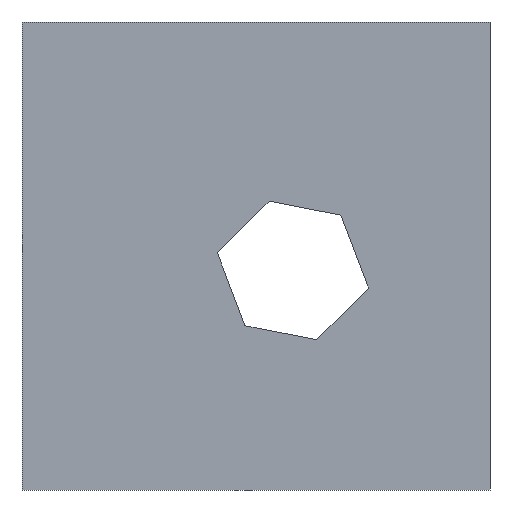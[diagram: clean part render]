
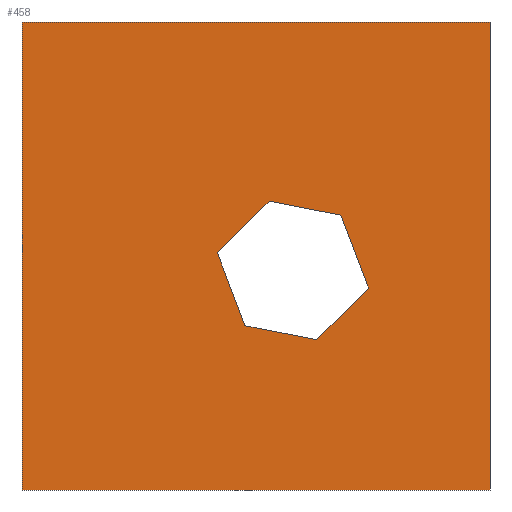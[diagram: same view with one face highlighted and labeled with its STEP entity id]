
A CAD part, front view. The second image highlights one B-rep face of the part: STEP entity #458.
In plain terms, the highlighted planar face has unit normal (0, -1, 0).
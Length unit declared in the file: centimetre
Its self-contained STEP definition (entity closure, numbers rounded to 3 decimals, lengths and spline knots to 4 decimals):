
#13 = VERTEX_POINT ( 'NONE', #584 ) ;
#22 = LINE ( 'NONE', #53, #124 ) ;
#32 = FACE_BOUND ( 'NONE', #320, .T. ) ;
#46 = ORIENTED_EDGE ( 'NONE', *, *, #331, .F. ) ;
#48 = LINE ( 'NONE', #301, #582 ) ;
#50 = CARTESIAN_POINT ( 'NONE',  ( 1000., 0., 0. ) ) ;
#53 = CARTESIAN_POINT ( 'NONE',  ( 681.4866, 0., 587.3327 ) ) ;
#59 = VERTEX_POINT ( 'NONE', #78 ) ;
#64 = VECTOR ( 'NONE', #473, 100. ) ;
#65 = VERTEX_POINT ( 'NONE', #621 ) ;
#76 = CARTESIAN_POINT ( 'NONE',  ( 417.4435, 0., 506.7052 ) ) ;
#78 = CARTESIAN_POINT ( 'NONE',  ( 417.4435, 0., 506.7052 ) ) ;
#85 = LINE ( 'NONE', #283, #152 ) ;
#116 = LINE ( 'NONE', #230, #333 ) ;
#124 = VECTOR ( 'NONE', #350, 100. ) ;
#128 = CARTESIAN_POINT ( 'NONE',  ( 0., 0., 1000. ) ) ;
#135 = DIRECTION ( 'NONE',  ( 0., 0., 1. ) ) ;
#142 = VERTEX_POINT ( 'NONE', #233 ) ;
#152 = VECTOR ( 'NONE', #620, 100. ) ;
#155 = CARTESIAN_POINT ( 'NONE',  ( 476.2815, 0., 350.9674 ) ) ;
#159 = LINE ( 'NONE', #359, #556 ) ;
#184 = LINE ( 'NONE', #287, #450 ) ;
#187 = CARTESIAN_POINT ( 'NONE',  ( 0., 0., 1000. ) ) ;
#189 = ORIENTED_EDGE ( 'NONE', *, *, #192, .F. ) ;
#192 = EDGE_CURVE ( 'NONE', #59, #13, #284, .T. ) ;
#197 = ORIENTED_EDGE ( 'NONE', *, *, #208, .F. ) ;
#200 = VECTOR ( 'NONE', #404, 100. ) ;
#208 = EDGE_CURVE ( 'NONE', #65, #59, #269, .T. ) ;
#218 = LINE ( 'NONE', #317, #325 ) ;
#230 = CARTESIAN_POINT ( 'NONE',  ( 1000., 0., 1000. ) ) ;
#232 = PLANE ( 'NONE',  #379 ) ;
#233 = CARTESIAN_POINT ( 'NONE',  ( 1000., 0., 1000. ) ) ;
#235 = CARTESIAN_POINT ( 'NONE',  ( 629.932, 0., 321.2023 ) ) ;
#269 = LINE ( 'NONE', #508, #348 ) ;
#283 = CARTESIAN_POINT ( 'NONE',  ( 740.3246, 0., 431.5949 ) ) ;
#284 = LINE ( 'NONE', #76, #64 ) ;
#287 = CARTESIAN_POINT ( 'NONE',  ( 629.932, 0., 321.2023 ) ) ;
#301 = CARTESIAN_POINT ( 'NONE',  ( 0., 0., 1000. ) ) ;
#317 = CARTESIAN_POINT ( 'NONE',  ( 0., 0., 1000. ) ) ;
#320 = EDGE_LOOP ( 'NONE', ( #544, #391, #459, #589, #189, #197 ) ) ;
#325 = VECTOR ( 'NONE', #640, 100. ) ;
#331 = EDGE_CURVE ( 'NONE', #142, #641, #116, .T. ) ;
#333 = VECTOR ( 'NONE', #420, 100. ) ;
#334 = EDGE_CURVE ( 'NONE', #13, #388, #610, .T. ) ;
#339 = EDGE_CURVE ( 'NONE', #539, #641, #159, .T. ) ;
#348 = VECTOR ( 'NONE', #504, 100. ) ;
#350 = DIRECTION ( 'NONE',  ( -0.982, 0., 0.19 ) ) ;
#359 = CARTESIAN_POINT ( 'NONE',  ( 0., 0., 0. ) ) ;
#372 = VERTEX_POINT ( 'NONE', #383 ) ;
#379 = AXIS2_PLACEMENT_3D ( 'NONE', #187, #386, #135 ) ;
#383 = CARTESIAN_POINT ( 'NONE',  ( 681.4866, 0., 587.3327 ) ) ;
#386 = DIRECTION ( 'NONE',  ( 0., 1., 0. ) ) ;
#388 = VERTEX_POINT ( 'NONE', #235 ) ;
#391 = ORIENTED_EDGE ( 'NONE', *, *, #419, .F. ) ;
#404 = DIRECTION ( 'NONE',  ( 0.982, 0., -0.19 ) ) ;
#414 = CARTESIAN_POINT ( 'NONE',  ( 0., 0., 0. ) ) ;
#416 = VERTEX_POINT ( 'NONE', #128 ) ;
#419 = EDGE_CURVE ( 'NONE', #551, #372, #85, .T. ) ;
#420 = DIRECTION ( 'NONE',  ( 0., 0., -1. ) ) ;
#429 = DIRECTION ( 'NONE',  ( 0.707, 0., 0.707 ) ) ;
#430 = EDGE_CURVE ( 'NONE', #388, #551, #184, .T. ) ;
#438 = ORIENTED_EDGE ( 'NONE', *, *, #579, .F. ) ;
#440 = EDGE_LOOP ( 'NONE', ( #494, #46, #438, #599 ) ) ;
#450 = VECTOR ( 'NONE', #429, 100. ) ;
#458 = ADVANCED_FACE ( 'NONE', ( #32, #631 ), #232, .F. ) ;
#459 = ORIENTED_EDGE ( 'NONE', *, *, #430, .F. ) ;
#467 = EDGE_CURVE ( 'NONE', #372, #65, #22, .T. ) ;
#473 = DIRECTION ( 'NONE',  ( 0.353, 0., -0.935 ) ) ;
#494 = ORIENTED_EDGE ( 'NONE', *, *, #339, .T. ) ;
#504 = DIRECTION ( 'NONE',  ( -0.707, 0., -0.707 ) ) ;
#508 = CARTESIAN_POINT ( 'NONE',  ( 527.8361, 0., 617.0978 ) ) ;
#533 = DIRECTION ( 'NONE',  ( 0., 0., -1. ) ) ;
#539 = VERTEX_POINT ( 'NONE', #414 ) ;
#544 = ORIENTED_EDGE ( 'NONE', *, *, #467, .F. ) ;
#551 = VERTEX_POINT ( 'NONE', #566 ) ;
#553 = DIRECTION ( 'NONE',  ( 1., 0., 0. ) ) ;
#556 = VECTOR ( 'NONE', #553, 100. ) ;
#566 = CARTESIAN_POINT ( 'NONE',  ( 740.3246, 0., 431.5949 ) ) ;
#579 = EDGE_CURVE ( 'NONE', #416, #142, #218, .T. ) ;
#582 = VECTOR ( 'NONE', #533, 100. ) ;
#584 = CARTESIAN_POINT ( 'NONE',  ( 476.2815, 0., 350.9674 ) ) ;
#589 = ORIENTED_EDGE ( 'NONE', *, *, #334, .F. ) ;
#599 = ORIENTED_EDGE ( 'NONE', *, *, #622, .T. ) ;
#610 = LINE ( 'NONE', #155, #200 ) ;
#620 = DIRECTION ( 'NONE',  ( -0.353, 0., 0.935 ) ) ;
#621 = CARTESIAN_POINT ( 'NONE',  ( 527.8361, 0., 617.0978 ) ) ;
#622 = EDGE_CURVE ( 'NONE', #416, #539, #48, .T. ) ;
#631 = FACE_OUTER_BOUND ( 'NONE', #440, .T. ) ;
#640 = DIRECTION ( 'NONE',  ( 1., 0., 0. ) ) ;
#641 = VERTEX_POINT ( 'NONE', #50 ) ;
